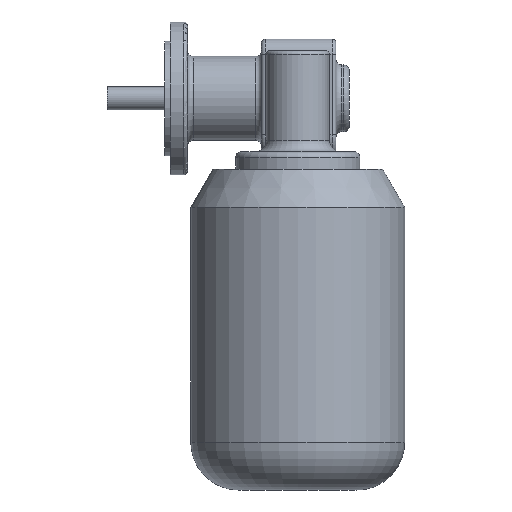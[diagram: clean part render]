
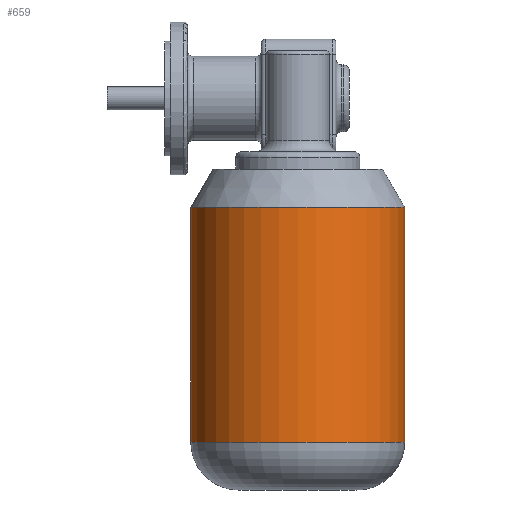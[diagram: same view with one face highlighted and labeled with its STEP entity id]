
A CAD part, front view. The second image highlights one B-rep face of the part: STEP entity #659.
In plain terms, the highlighted cylindrical face has radius 56 mm (diameter 112 mm), a partial arc.
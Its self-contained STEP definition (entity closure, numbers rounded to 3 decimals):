
#549 = VERTEX_POINT ( 'NONE', #3166 ) ;
#555 = VERTEX_POINT ( 'NONE', #3256 ) ;
#563 = VERTEX_POINT ( 'NONE', #3248 ) ;
#592 = EDGE_LOOP ( 'NONE', ( #662, #596, #664, #665 ) ) ;
#596 = ORIENTED_EDGE ( 'NONE', *, *, #660, .T. ) ;
#597 = EDGE_CURVE ( 'NONE', #618, #555, #3235, .T. ) ;
#601 = EDGE_CURVE ( 'NONE', #549, #563, #3324, .T. ) ;
#618 = VERTEX_POINT ( 'NONE', #3381 ) ;
#659 = ADVANCED_FACE ( 'NONE', ( #3367 ), #3402, .T. ) ;
#660 = EDGE_CURVE ( 'NONE', #549, #618, #3456, .T. ) ;
#661 = EDGE_CURVE ( 'NONE', #555, #563, #3458, .T. ) ;
#662 = ORIENTED_EDGE ( 'NONE', *, *, #601, .F. ) ;
#664 = ORIENTED_EDGE ( 'NONE', *, *, #597, .T. ) ;
#665 = ORIENTED_EDGE ( 'NONE', *, *, #661, .T. ) ;
#3166 = CARTESIAN_POINT ( 'NONE',  ( 0., 57.107, -143. ) ) ;
#3235 = LINE ( 'NONE', #3280, #3279 ) ;
#3248 = CARTESIAN_POINT ( 'NONE',  ( 0., 57.107, -20. ) ) ;
#3256 = CARTESIAN_POINT ( 'NONE',  ( 0., -54.893, -20. ) ) ;
#3278 = DIRECTION ( 'NONE',  ( 0., 0., 1. ) ) ;
#3279 = VECTOR ( 'NONE', #3278, 1000. ) ;
#3280 = CARTESIAN_POINT ( 'NONE',  ( 0., -54.893, -168. ) ) ;
#3323 = CARTESIAN_POINT ( 'NONE',  ( 0., 57.107, -168. ) ) ;
#3324 = LINE ( 'NONE', #3323, #3359 ) ;
#3358 = DIRECTION ( 'NONE',  ( 0., 0., 1. ) ) ;
#3359 = VECTOR ( 'NONE', #3358, 1000. ) ;
#3367 = FACE_OUTER_BOUND ( 'NONE', #592, .T. ) ;
#3381 = CARTESIAN_POINT ( 'NONE',  ( 0., -54.893, -143. ) ) ;
#3402 = CYLINDRICAL_SURFACE ( 'NONE', #3457, 56. ) ;
#3405 = CARTESIAN_POINT ( 'NONE',  ( 0., 1.107, -168. ) ) ;
#3443 = DIRECTION ( 'NONE',  ( 0., -1., 0. ) ) ;
#3444 = DIRECTION ( 'NONE',  ( 0., 0., -1. ) ) ;
#3447 = DIRECTION ( 'NONE',  ( 0., -1., 0. ) ) ;
#3448 = DIRECTION ( 'NONE',  ( 0., 0., 1. ) ) ;
#3449 = CARTESIAN_POINT ( 'NONE',  ( 0., 1.107, -143. ) ) ;
#3450 = AXIS2_PLACEMENT_3D ( 'NONE', #3449, #3448, #3447 ) ;
#3451 = CARTESIAN_POINT ( 'NONE',  ( 0., 1.107, -20. ) ) ;
#3453 = AXIS2_PLACEMENT_3D ( 'NONE', #3451, #3444, #3443 ) ;
#3454 = DIRECTION ( 'NONE',  ( 0., -1., 0. ) ) ;
#3455 = DIRECTION ( 'NONE',  ( 0., 0., 1. ) ) ;
#3456 = CIRCLE ( 'NONE', #3450, 56. ) ;
#3457 = AXIS2_PLACEMENT_3D ( 'NONE', #3405, #3455, #3454 ) ;
#3458 = CIRCLE ( 'NONE', #3453, 56. ) ;
